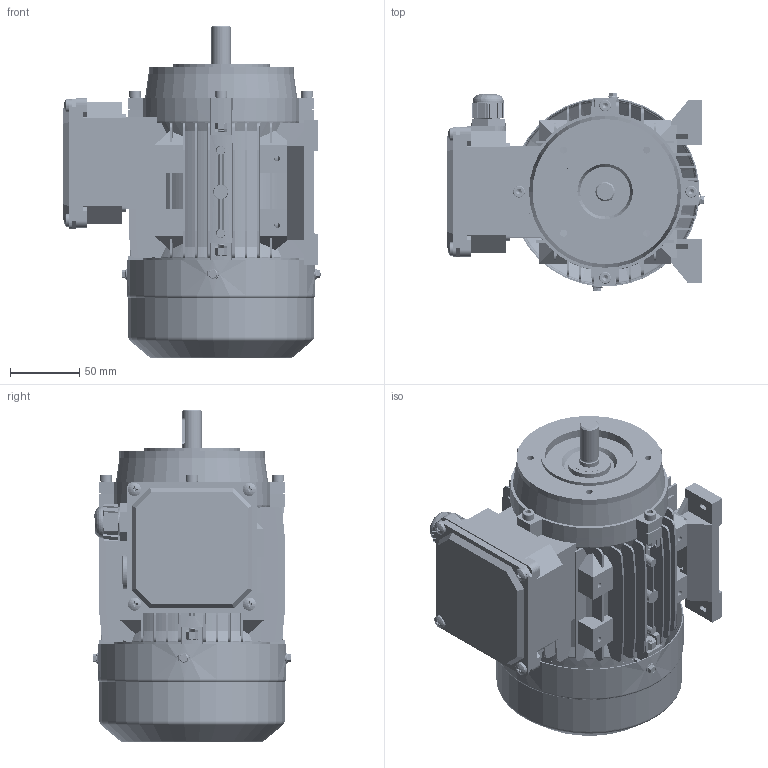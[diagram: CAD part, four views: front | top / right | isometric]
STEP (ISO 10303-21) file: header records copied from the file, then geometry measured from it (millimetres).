
FILE_DESCRIPTION (( 'STEP AP203' ), '1' );
FILE_NAME ('MS71S B34 3D蚾饜芞.STEP', '2024-06-01T08:52:43', ( 'User' ), ( 'China' ), 'SwSTEP 2.0', 'SolidWorks 2018', '' );
FILE_SCHEMA (( 'CONFIG_CONTROL_DESIGN' ));
Length unit declared in the file: millimetre
Products named in the file (23): spring lock washers--normal type gb_GB_FASTENER_WASHER_SW 6; pan cross head screw_as_AS-NZS 1427 PC- M5 x 8-S; hexagon socket head cap screws gb_GB_FASTENER_SCREWS_HSHCS M6X20-S; 蹟杶郋M20X1.5; MS63-71諉盄碟菁釱; 蹟簸M20X1.5; MS63-71諉盄碟裔; hexagon socket head cap screws gb_GB_FASTENER_SCREWS_HSHCS M5X25-S; hexagon socket head cap screw_as_AS 1420 - M5 x 25-S; 8.013.07104MS71B14傷裔; 8.034.07101MS71 S儂褲; spring lock washers--normal type gb_GB_FASTENER_WASHER_SW 5; hexagon nut (grades c) as_AS 1112.3 C- M5-S; MS71S B34 3D蚾饜芞; 8.013.07102MS71綴傷裔; hex nuts, style 1-grades ab gb_GB_FASTENER_NUT_SNAB1 M5-N; 8.306.07101MS71邧脯瑞欶; 8.200.07101MS71 S蛌粣; 蚐猾25X14X4; hex washer head screw_as_AS-NZS 1427 HW - M4 x 6-N; 8.043.07101MS71菁褐; 黑芛20X1.5; pan cross head screw_as_AS-NZS 1427 PC- M4 x 8-S
Assembly tree (52 placements, depth 2):
  MS71S B34 3D蚾饜芞
    8.034.07101MS71 S儂褲
    8.013.07102MS71綴傷裔
    8.200.07101MS71 S蛌粣
    8.043.07101MS71菁褐  x2
    hexagon socket head cap screw_as_AS 1420 - M5 x 25-S  x4
    hexagon nut (grades c) as_AS 1112.3 C- M5-S  x4
    8.306.07101MS71邧脯瑞欶
    hex washer head screw_as_AS-NZS 1427 HW - M4 x 6-N  x4
    pan cross head screw_as_AS-NZS 1427 PC- M4 x 8-S  x4
    pan cross head screw_as_AS-NZS 1427 PC- M5 x 8-S  x4
    蹟杶郋M20X1.5
    蹟簸M20X1.5
    hexagon socket head cap screws gb_GB_FASTENER_SCREWS_HSHCS M5X25-S  x4
    spring lock washers--normal type gb_GB_FASTENER_WASHER_SW 5  x4
    hex nuts, style 1-grades ab gb_GB_FASTENER_NUT_SNAB1 M5-N  x3
    蚐猾25X14X4
    黑芛20X1.5
    spring lock washers--normal type gb_GB_FASTENER_WASHER_SW 6  x4
    hexagon socket head cap screws gb_GB_FASTENER_SCREWS_HSHCS M6X20-S  x4
    MS63-71諉盄碟菁釱
    MS63-71諉盄碟裔
    8.013.07104MS71B14傷裔
Bounding box: 185.9 x 143.8 x 240.1 mm (x, y, z)
Volume: 657908.2 mm3; surface area: 475623.7 mm2
Topology: 52 solids, 61 shells, 7005 faces, 16627 edges, 9816 vertices
Faces by surface type: cone 2486, plane 2378, cylinder 1864, bspline 146, torus 115, sphere 16
Entity records: 140344 total; most frequent: CARTESIAN_POINT 44245, ORIENTED_EDGE 20114, DIRECTION 18270, EDGE_CURVE 10057, VERTEX_POINT 6358, AXIS2_PLACEMENT_3D 6202, LINE 5866, VECTOR 5866
